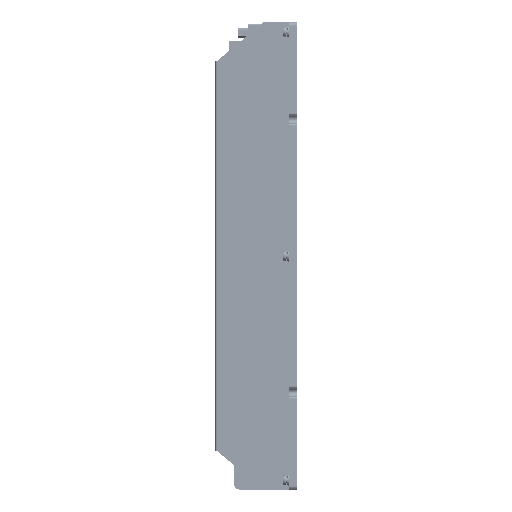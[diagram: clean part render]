
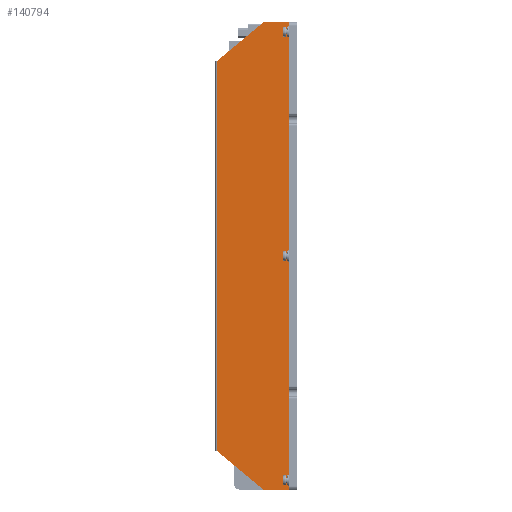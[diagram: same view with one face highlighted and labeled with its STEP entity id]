
A CAD part, left-side view. The second image highlights one B-rep face of the part: STEP entity #140794.
In plain terms, the highlighted planar face has unit normal (-1, 0, 0).
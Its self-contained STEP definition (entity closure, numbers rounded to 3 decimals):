
#967 = DIRECTION ( 'NONE',  ( 0., -0.768, -0.64 ) ) ;
#4063 = DIRECTION ( 'NONE',  ( 0., -1., 0. ) ) ;
#8797 = DIRECTION ( 'NONE',  ( 0., -1., 0. ) ) ;
#8931 = ORIENTED_EDGE ( 'NONE', *, *, #157303, .T. ) ;
#9985 = DIRECTION ( 'NONE',  ( 0., 0., 1. ) ) ;
#14865 = CARTESIAN_POINT ( 'NONE',  ( -47.1, 40.99, -100. ) ) ;
#16628 = CARTESIAN_POINT ( 'NONE',  ( -47.1, 16.276, 120. ) ) ;
#16997 = ORIENTED_EDGE ( 'NONE', *, *, #41985, .T. ) ;
#18272 = VECTOR ( 'NONE', #967, 1000. ) ;
#20074 = LINE ( 'NONE', #34963, #18272 ) ;
#20572 = CARTESIAN_POINT ( 'NONE',  ( -47.1, 40.99, -120. ) ) ;
#20979 = CARTESIAN_POINT ( 'NONE',  ( -47.1, 16.276, -120. ) ) ;
#30262 = LINE ( 'NONE', #106814, #111839 ) ;
#34963 = CARTESIAN_POINT ( 'NONE',  ( -47.1, 40.99, -100. ) ) ;
#35839 = CIRCLE ( 'NONE', #96979, 2. ) ;
#38544 = VECTOR ( 'NONE', #84872, 1000. ) ;
#41985 = EDGE_CURVE ( 'NONE', #186840, #210148, #20074, .T. ) ;
#43890 = CARTESIAN_POINT ( 'NONE',  ( -47.1, 40.99, 100. ) ) ;
#44878 = EDGE_CURVE ( 'NONE', #210148, #141448, #200815, .T. ) ;
#46485 = CARTESIAN_POINT ( 'NONE',  ( -47.1, 16.276, -118. ) ) ;
#52986 = AXIS2_PLACEMENT_3D ( 'NONE', #99756, #164581, #4063 ) ;
#63476 = DIRECTION ( 'NONE',  ( -1., 0., 0. ) ) ;
#64695 = CARTESIAN_POINT ( 'NONE',  ( -47.1, 40.99, 120. ) ) ;
#65765 = ORIENTED_EDGE ( 'NONE', *, *, #168788, .F. ) ;
#66989 = VECTOR ( 'NONE', #137391, 1000. ) ;
#68372 = DIRECTION ( 'NONE',  ( 0., -1., 0. ) ) ;
#69916 = FACE_OUTER_BOUND ( 'NONE', #155153, .T. ) ;
#77770 = CARTESIAN_POINT ( 'NONE',  ( -47.1, 4.01, -120. ) ) ;
#80888 = ORIENTED_EDGE ( 'NONE', *, *, #44878, .T. ) ;
#84358 = EDGE_CURVE ( 'NONE', #195052, #154203, #138580, .T. ) ;
#84872 = DIRECTION ( 'NONE',  ( 0., -1., 0. ) ) ;
#87204 = ORIENTED_EDGE ( 'NONE', *, *, #112324, .T. ) ;
#96979 = AXIS2_PLACEMENT_3D ( 'NONE', #171395, #105506, #8797 ) ;
#99756 = CARTESIAN_POINT ( 'NONE',  ( -47.1, 40.99, -100. ) ) ;
#105506 = DIRECTION ( 'NONE',  ( -1., 0., 0. ) ) ;
#106638 = EDGE_CURVE ( 'NONE', #186840, #187738, #151252, .T. ) ;
#106814 = CARTESIAN_POINT ( 'NONE',  ( -47.1, 40.99, 100. ) ) ;
#111002 = DIRECTION ( 'NONE',  ( 0., -0.768, 0.64 ) ) ;
#111839 = VECTOR ( 'NONE', #111002, 1000. ) ;
#112324 = EDGE_CURVE ( 'NONE', #147329, #175269, #35839, .T. ) ;
#125181 = CARTESIAN_POINT ( 'NONE',  ( -47.1, 17.556, -119.536 ) ) ;
#135301 = LINE ( 'NONE', #20572, #192608 ) ;
#137391 = DIRECTION ( 'NONE',  ( 0., 0., 1. ) ) ;
#138580 = LINE ( 'NONE', #155596, #158667 ) ;
#140794 = ADVANCED_FACE ( 'NONE', ( #69916 ), #149666, .F. ) ;
#141448 = VERTEX_POINT ( 'NONE', #20979 ) ;
#147329 = VERTEX_POINT ( 'NONE', #16628 ) ;
#147875 = EDGE_CURVE ( 'NONE', #187738, #175269, #30262, .T. ) ;
#149666 = PLANE ( 'NONE',  #52986 ) ;
#150289 = ORIENTED_EDGE ( 'NONE', *, *, #84358, .T. ) ;
#151252 = LINE ( 'NONE', #200189, #66989 ) ;
#153019 = CARTESIAN_POINT ( 'NONE',  ( -47.1, 4.01, 120. ) ) ;
#154203 = VERTEX_POINT ( 'NONE', #153019 ) ;
#155153 = EDGE_LOOP ( 'NONE', ( #65765, #87204, #172027, #192245, #16997, #80888, #8931, #150289 ) ) ;
#155596 = CARTESIAN_POINT ( 'NONE',  ( -47.1, 4.01, -100. ) ) ;
#155994 = CARTESIAN_POINT ( 'NONE',  ( -47.1, 17.556, 119.536 ) ) ;
#157303 = EDGE_CURVE ( 'NONE', #141448, #195052, #135301, .T. ) ;
#158667 = VECTOR ( 'NONE', #9985, 1000. ) ;
#160131 = AXIS2_PLACEMENT_3D ( 'NONE', #46485, #63476, #180355 ) ;
#164569 = LINE ( 'NONE', #64695, #38544 ) ;
#164581 = DIRECTION ( 'NONE',  ( 1., 0., 0. ) ) ;
#168788 = EDGE_CURVE ( 'NONE', #147329, #154203, #164569, .T. ) ;
#171395 = CARTESIAN_POINT ( 'NONE',  ( -47.1, 16.276, 118. ) ) ;
#172027 = ORIENTED_EDGE ( 'NONE', *, *, #147875, .F. ) ;
#175269 = VERTEX_POINT ( 'NONE', #155994 ) ;
#180355 = DIRECTION ( 'NONE',  ( 0., -1., 0. ) ) ;
#186840 = VERTEX_POINT ( 'NONE', #14865 ) ;
#187738 = VERTEX_POINT ( 'NONE', #43890 ) ;
#192245 = ORIENTED_EDGE ( 'NONE', *, *, #106638, .F. ) ;
#192608 = VECTOR ( 'NONE', #68372, 1000. ) ;
#195052 = VERTEX_POINT ( 'NONE', #77770 ) ;
#200189 = CARTESIAN_POINT ( 'NONE',  ( -47.1, 40.99, -100. ) ) ;
#200815 = CIRCLE ( 'NONE', #160131, 2. ) ;
#210148 = VERTEX_POINT ( 'NONE', #125181 ) ;
